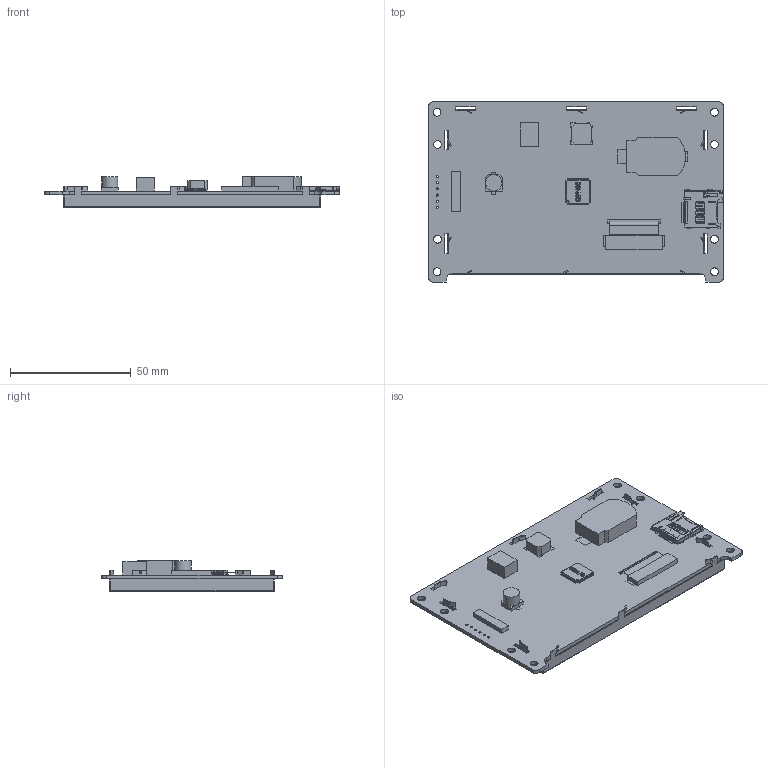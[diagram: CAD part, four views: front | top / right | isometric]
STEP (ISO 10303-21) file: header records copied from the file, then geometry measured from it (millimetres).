
FILE_DESCRIPTION(/* description */ (''),/* implementation_level */ '2;1');
FILE_NAME(/* name */ '',/* time_stamp */ '2022-05-17T17:34:38+08:00',/* author */ (''),/* organization */ (''),/* preprocessor_version */ 'ST-DEVELOPER v11',/* originating_system */ 'SIEMENS PLM Software NX 7.5',/* authorisation */ '');
FILE_SCHEMA (('AP203_CONFIGURATION_CONTROLLED_3D_DESIGN_OF_MECHANICAL_PARTS_AND_ASSEMBLIES_MIM_LF'));
Products named in the file (1): SDWb043T84N_stp
Bounding box: 121.9 x 74.7 x 12.81 mm (x, y, z)
Volume: 45792.7 mm3; surface area: 45870.9 mm2
Topology: 16 solids, 16 shells, 2215 faces, 6744 edges, 4860 vertices
Faces by surface type: plane 1775, cylinder 432, bspline 7, cone 1
Full cylindrical faces by diameter (mm): 0.889 x6, 3.2 x8, 6.776 x1
Entity records: 77223 total; most frequent: CARTESIAN_POINT 13755, ORIENTED_EDGE 12778, DIRECTION 11923, EDGE_CURVE 6389, LINE 5789, VECTOR 5789, VERTEX_POINT 4210, AXIS2_PLACEMENT_3D 3067
